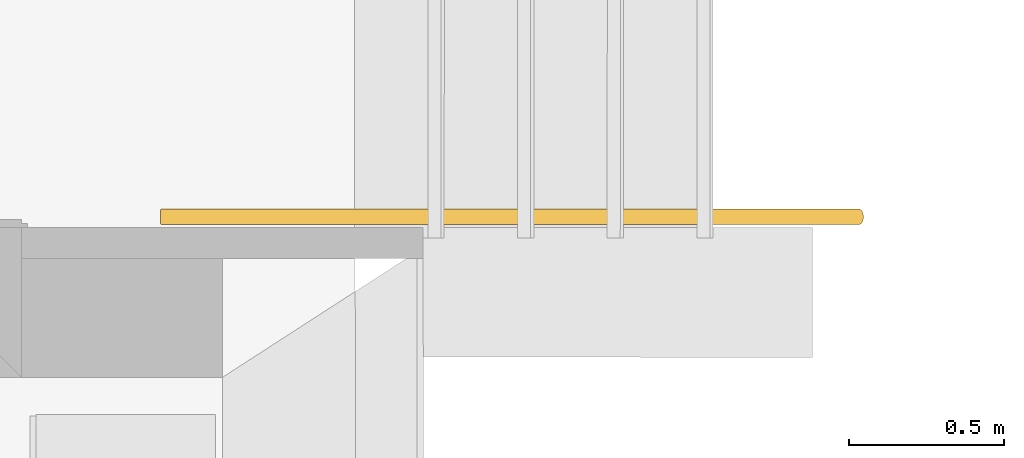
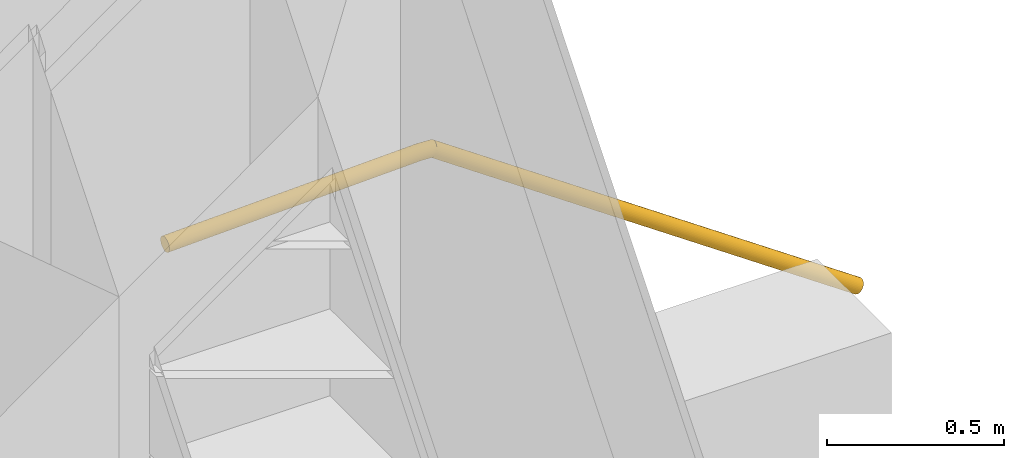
# One storey, part 114 of 194: 1 railing.
"""IFC2X3 building model written with IfcOpenShell, lengths in millimetres."""

import ifcopenshell
import ifcopenshell.guid

model = None  # the IFC model being written
_history = None  # IfcOwnerHistory: only IFC2X3 demands one
_inside = {}  # id of a spatial element -> (the spatial element, [elements in it])
_under = {}  # id of a project, library or spatial element -> (it, [spatial elements below it])
_declared = {}  # id of a project -> (the project, [libraries it declares])
_typed = {}  # id of a type object -> (the type object, [elements of that type])
_made_of = {}  # id of a material, layer set ... -> (it, [elements and type objects made of it])


def new_model(schema):
    """Start an empty IFC model of exactly this schema.

    Asked for "IFC4X3", IfcOpenShell would pick the latest addendum, in which some entities
    have other attributes; the version numbers below select the first issue.
    IFC2X3 requires an IfcOwnerHistory on every rooted entity: one is made here for all.
    """
    global model, _history
    if schema == "IFC4X3":
        model = ifcopenshell.file(schema_version=(4, 3, 0, 0))
    else:
        model = ifcopenshell.file(schema=schema)
    _inside.clear()
    _under.clear()
    _declared.clear()
    _typed.clear()
    _made_of.clear()
    _history = None
    if model.schema == "IFC2X3":
        org = make("IfcOrganization", Name="unknown")
        user = make(
            "IfcPersonAndOrganization",
            ThePerson=make("IfcPerson", FamilyName="unknown"),
            TheOrganization=org,
        )
        app = make(
            "IfcApplication",
            ApplicationDeveloper=org,
            Version="unknown",
            ApplicationFullName="unknown",
            ApplicationIdentifier="unknown",
        )
        _history = make(
            "IfcOwnerHistory",
            OwningUser=user,
            OwningApplication=app,
            ChangeAction="ADDED",
            CreationDate=0,
        )
    return model


def make(cls, **values):
    """One entity of the class cls with the attributes given. An attribute that is None is left unset."""
    return model.create_entity(
        cls, **{name: value for name, value in values.items() if value is not None}
    )


def entity(cls, *values):
    """Any entity or typed value of the class cls, its attributes in the order of the schema. None: left unset."""
    e = model.create_entity(cls)
    for i, value in enumerate(values):
        if value is not None:
            e[i] = value
    return e


def rooted(cls, **values):
    """An entity with a GlobalId (a new one), such as an element, a storey or a relation."""
    return make(cls, GlobalId=ifcopenshell.guid.new(), OwnerHistory=_history, **values)


def si_unit(unit_type, name, prefix=None):
    """IfcSIUnit, for example si_unit("LENGTHUNIT", "METRE", prefix="MILLI")."""
    return make("IfcSIUnit", UnitType=unit_type, Prefix=prefix, Name=name)


def converted_unit(unit_type, name, factor, base, dimensions=None, offset=None):
    """IfcConversionBasedUnit, such as the inch: factor (a typed value) times the base unit."""
    return make(
        "IfcConversionBasedUnit"
        if offset is None
        else "IfcConversionBasedUnitWithOffset",
        ConversionOffset=offset,
        Dimensions=None
        if dimensions is None
        else entity("IfcDimensionalExponents", *dimensions),
        UnitType=unit_type,
        Name=name,
        ConversionFactor=make(
            "IfcMeasureWithUnit", ValueComponent=factor, UnitComponent=base
        ),
    )


def derived_unit(unit_type, elements):
    """IfcDerivedUnit: a product of units, each with its exponent."""
    return make(
        "IfcDerivedUnit",
        Elements=[
            make("IfcDerivedUnitElement", Unit=unit, Exponent=power)
            for unit, power in elements
        ],
        UnitType=unit_type,
    )


def money_unit(currency):
    """IfcMonetaryUnit."""
    return make("IfcMonetaryUnit", Currency=currency)


def assignment(units):
    """IfcUnitAssignment: the units of a project."""
    return None if units is None else make("IfcUnitAssignment", Units=units)


def point(xyz):
    """IfcCartesianPoint."""
    return None if xyz is None else make("IfcCartesianPoint", Coordinates=xyz)


def direction(xyz):
    """IfcDirection."""
    return None if xyz is None else make("IfcDirection", DirectionRatios=xyz)


def frame(location, z_axis=None, x_axis=None):
    """IfcAxis2Placement3D, a coordinate frame: its origin and axes. An axis left out is left unset."""
    return make(
        "IfcAxis2Placement3D",
        Location=point(location),
        Axis=direction(z_axis),
        RefDirection=direction(x_axis),
    )


def origin_with_axes():
    """The frame at (0, 0, 0) with the z axis (0, 0, 1) and the x axis (1, 0, 0) written out."""
    return frame((0.0, 0.0, 0.0), z_axis=(0.0, 0.0, 1.0), x_axis=(1.0, 0.0, 0.0))


def place(relative_to, where):
    """IfcLocalPlacement: puts the frame where relative to a parent placement (None: the world)."""
    return make(
        "IfcLocalPlacement", PlacementRelTo=relative_to, RelativePlacement=where
    )


def context(
    kind, dimensions, precision=None, world=None, true_north=None, identifier=None
):
    """IfcGeometricRepresentationContext, for example the 3D "Model" context."""
    return make(
        "IfcGeometricRepresentationContext",
        ContextIdentifier=identifier,
        ContextType=kind,
        CoordinateSpaceDimension=dimensions,
        Precision=precision,
        WorldCoordinateSystem=world,
        TrueNorth=true_north,
    )


def subcontext(parent, identifier, kind, view, scale=None):
    """IfcGeometricRepresentationSubContext, for example "Body" below "Model"."""
    return make(
        "IfcGeometricRepresentationSubContext",
        ContextIdentifier=identifier,
        ContextType=kind,
        ParentContext=parent,
        TargetScale=scale,
        TargetView=view,
    )


def project(units=None, contexts=None):
    """IfcProject with its units and contexts."""
    return rooted(
        "IfcProject",
        Name="project",
        RepresentationContexts=contexts,
        UnitsInContext=assignment(units),
    )


def spatial(cls, under=None, at=None, **own):
    """A site, building, storey or space (cls), placed at a placement, below another one or the project."""
    s = rooted(cls, ObjectPlacement=at, **own)
    if under is not None:
        _under.setdefault(under.id(), (under, []))[1].append(s)
    return s


def faces_of(points, faces, orient=None, outer=None):
    """IfcFace entities. A face is a list of loops; a loop is a list of indices into points, from 0.

    orient and outer hold one flag for each loop. By default every Orientation is true, the
    first loop of a face is its IfcFaceOuterBound and the others are IfcFaceBound.
    """
    made = []
    for i, loops in enumerate(faces):
        bounds = []
        for j, loop in enumerate(loops):
            is_outer = j == 0 if outer is None else outer[i][j]
            bounds.append(
                make(
                    "IfcFaceOuterBound" if is_outer else "IfcFaceBound",
                    Bound=make("IfcPolyLoop", Polygon=[points[k] for k in loop]),
                    Orientation=True if orient is None else orient[i][j],
                )
            )
        made.append(make("IfcFace", Bounds=bounds))
    return made


def faceted_brep(points, faces, orient=None, outer=None, voids=None):
    """IfcFacetedBrep: a solid bounded by flat faces; with voids (closed shells), ...WithVoids."""
    shared = [point(p) for p in points]
    hull = make("IfcClosedShell", CfsFaces=faces_of(shared, faces, orient, outer))
    if voids is None:
        return make("IfcFacetedBrep", Outer=hull)
    return make(
        "IfcFacetedBrepWithVoids",
        Outer=hull,
        Voids=[
            make(cls, CfsFaces=faces_of(shared, fs, o, b)) for cls, fs, o, b in voids
        ],
    )


def shape(context_of_items, identifier, shape_type, items):
    """IfcShapeRepresentation: the items that make up one representation, for example the "Body"."""
    return make(
        "IfcShapeRepresentation",
        ContextOfItems=context_of_items,
        RepresentationIdentifier=identifier,
        RepresentationType=shape_type,
        Items=items,
    )


def material(Name=None, Category=None):
    """IfcMaterial."""
    return make("IfcMaterial", Name=Name, Category=Category)


def material_list(materials):
    """IfcMaterialList."""
    return make("IfcMaterialList", Materials=materials)


def made_of(thing, what):
    """Note that an element or type object is made of a material, layer set ...; save() writes the relation."""
    if what is not None:
        _made_of.setdefault(what.id(), (what, []))[1].append(thing)
    return thing


def type_object(cls, material=None, **own):
    """A type object (cls), such as IfcWallType, which elements share."""
    return made_of(rooted(cls, **own), material)


def element(
    cls,
    number,
    at=None,
    inside=None,
    cuts=None,
    type_object=None,
    material=None,
    context=None,
    identifier="Body",
    shape_type=None,
    held_by="IfcProductDefinitionShape",
    body=None,
    shapes=None,
    **own,
):
    """One element of the class cls, such as IfcWall. Its Tag is "e" and its number.

    at: its placement. inside: the storey or other place that contains it. cuts: it is an
    opening in that element (IfcRelVoidsElement). A single representation is given by context,
    identifier, shape_type and body (its items); several are given by shapes. held_by: the class
    of the entity that holds the representations. save() writes the other relations.
    """
    e = rooted(cls, Tag="e%d" % number, ObjectPlacement=at, **own)
    if body is not None:
        shapes = [shape(context, identifier, shape_type, body)]
    if shapes is not None:
        e.Representation = make(held_by, Representations=shapes)
    if inside is not None:
        _inside.setdefault(inside.id(), (inside, []))[1].append(e)
    if cuts is not None:
        rooted(
            "IfcRelVoidsElement", RelatingBuildingElement=cuts, RelatedOpeningElement=e
        )
    if type_object is not None:
        _typed.setdefault(type_object.id(), (type_object, []))[1].append(e)
    return made_of(e, material)


def aggregate(whole, parts):
    """IfcRelAggregates: a whole, such as a stair, and the parts it consists of."""
    return rooted("IfcRelAggregates", RelatingObject=whole, RelatedObjects=parts)


def save(model, path):
    """Write the relations noted so far, then the file.

    IfcRelAggregates (storeys below a building ...), IfcRelContainedInSpatialStructure (elements
    in a storey), IfcRelDefinesByType, IfcRelAssociatesMaterial and IfcRelDeclares: one each for
    every whole, place, type object, material and project.
    """
    for whole, parts in _under.values():
        aggregate(whole, parts)
    for where, things in _inside.values():
        rooted(
            "IfcRelContainedInSpatialStructure",
            RelatedElements=things,
            RelatingStructure=where,
        )
    for kind, things in _typed.values():
        rooted("IfcRelDefinesByType", RelatedObjects=things, RelatingType=kind)
    for what, things in _made_of.values():
        rooted("IfcRelAssociatesMaterial", RelatedObjects=things, RelatingMaterial=what)
    for by, libraries in _declared.values():
        rooted("IfcRelDeclares", RelatingContext=by, RelatedDefinitions=libraries)
    model.write(path)


model = new_model("IFC2X3")

# Units and contexts
model_context = context("Model", 3, precision=1e-05, world=origin_with_axes(), true_north=direction((0.0, 1.0)))
body_context = subcontext(model_context, "Body", "Model", "MODEL_VIEW")
ifc_project = project(units=[si_unit("LENGTHUNIT", "METRE", prefix="MILLI"), si_unit("AREAUNIT", "SQUARE_METRE"), si_unit("VOLUMEUNIT", "CUBIC_METRE"), converted_unit("PLANEANGLEUNIT", "DEGREE", entity("IfcPlaneAngleMeasure", 0.0174532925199), si_unit("PLANEANGLEUNIT", "RADIAN"), dimensions=[0, 0, 0, 0, 0, 0, 0]), si_unit("SOLIDANGLEUNIT", "STERADIAN"), money_unit("EUR"), converted_unit("TIMEUNIT", "Year", entity("IfcTimeMeasure", 31556926.0), si_unit("TIMEUNIT", "SECOND"), dimensions=[0, 0, 1, 0, 0, 0, 0]), si_unit("MASSUNIT", "GRAM", prefix="KILO"), si_unit("THERMODYNAMICTEMPERATUREUNIT", "DEGREE_CELSIUS"), si_unit("LUMINOUSINTENSITYUNIT", "LUMEN"), si_unit("ENERGYUNIT", "JOULE", prefix="MEGA"), derived_unit("THERMALCONDUCTANCEUNIT", [(si_unit("POWERUNIT", "WATT"), 1), (si_unit("LENGTHUNIT", "METRE"), -1), (si_unit("THERMODYNAMICTEMPERATUREUNIT", "KELVIN"), -1)]), derived_unit("SPECIFICHEATCAPACITYUNIT", [(si_unit("ENERGYUNIT", "JOULE"), 1), (si_unit("MASSUNIT", "GRAM", prefix="KILO"), -1), (si_unit("THERMODYNAMICTEMPERATUREUNIT", "KELVIN"), -1)]), derived_unit("MASSDENSITYUNIT", [(si_unit("MASSUNIT", "GRAM", prefix="KILO"), 1), (si_unit("VOLUMEUNIT", "CUBIC_METRE"), -1)])], contexts=[model_context])

# Site, building, storey
site_placement = place(None, origin_with_axes())
site = spatial("IfcSite", under=ifc_project, at=site_placement, Name="Site", CompositionType="ELEMENT")
building_placement = place(site_placement, origin_with_axes())
building = spatial("IfcBuilding", under=site, at=building_placement, Name="Building", CompositionType="ELEMENT")
storey_placement = place(building_placement, frame((0.0, 0.0, 3000.0), z_axis=(0.0, 0.0, 1.0), x_axis=(1.0, 0.0, 0.0)))
storey = spatial("IfcBuildingStorey", under=building, at=storey_placement, Name="2 KORRUS", CompositionType="ELEMENT", Elevation=3000.0)

# Railing
ifc_material = material(Name="Puit - Konstruktsioon (1)")
ifc_material_list = material_list([ifc_material, ifc_material, ifc_material, ifc_material, ifc_material])
railing_type = type_object("IfcRailingType", Name="Piire", PredefinedType="NOTDEFINED")
railing_placement = place(storey_placement, frame((45103.200004, 65629.6836184, -911.478706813), z_axis=(0.0, 0.0, 1.0), x_axis=(1.0, 0.0, 0.0)))
element("IfcRailing", 1, at=railing_placement, inside=storey, type_object=railing_type, material=ifc_material_list, Name="Piire", PredefinedType="NOTDEFINED", context=body_context, shape_type="Brep", body=[
    faceted_brep([(-14.182744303, 125.003306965, 979.432476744), (-11.7149691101, 124.622925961, 983.003989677), (152.825212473, 124.584599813, 869.309103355), (150.35743728, 124.964980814, 865.737590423), (-16.6506964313, 124.624075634, 975.860963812), (-19.0438380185, 123.496754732, 972.397969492), (-21.2894546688, 121.655597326, 969.148715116), (-23.3193144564, 119.156546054, 966.211927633), (-25.0717411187, 116.075533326, 963.676839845), (-26.4934880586, 112.506174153, 961.620479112), (-27.5413562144, 108.556921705, 960.105326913), (-28.1835066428, 104.347772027, 959.177420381), (-28.4004279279, 100.006617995, 958.864953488), (-28.185529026, 95.6653633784, 959.177420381), (-27.5453395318, 91.4559150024, 960.105326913), (-26.4993112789, 87.5061748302, 961.620479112), (-25.0792273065, 83.9361537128, 963.676839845), (-23.3282361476, 80.854324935, 966.211927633), (-21.2995407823, 78.3543283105, 969.148715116), (-19.0547820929, 76.512124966, 972.397969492), (-16.6621659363, 75.38368932, 975.860963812), (-14.1943907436, 75.0033083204, 979.432476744), (-11.7264386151, 75.3825396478, 983.003989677), (-9.33329702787, 76.5098605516, 986.466983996), (-7.08768037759, 78.351017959, 989.716238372), (-5.05782059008, 80.8500692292, 992.653025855), (-3.30539392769, 83.9310819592, 995.188113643), (-1.88364698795, 87.5004411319, 997.244474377), (-0.83577883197, 91.4496935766, 998.759626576), (-0.193628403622, 95.6588432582, 999.687533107), (0.0232928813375, 99.9999972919, 1000.0), (-0.191606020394, 104.341251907, 999.687533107), (-0.831795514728, 108.550700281, 998.759626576), (-1.87782376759, 112.500440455, 997.244474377), (-3.29790774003, 116.070461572, 995.188113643), (-5.04889889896, 119.152290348, 992.653025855), (-7.07759426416, 121.652286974, 989.716238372), (-9.3223529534, 123.494490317, 986.466983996), (155.21782863, 123.456164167, 872.772097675), (157.462587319, 121.613960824, 876.021352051), (159.491282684, 119.113964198, 878.958139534), (161.242273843, 116.032135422, 881.493227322), (162.662357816, 112.462114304, 883.549588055), (163.708386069, 108.51237413, 885.064740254), (164.348575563, 104.302925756, 885.992646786), (164.563474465, 99.9616711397, 886.305113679), (164.34655318, 95.6205171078, 885.992646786), (163.704402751, 91.4113674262, 885.064740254), (162.656534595, 87.4621149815, 883.549588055), (161.234787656, 83.8927558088, 881.493227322), (159.482360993, 80.8117430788, 878.958139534), (157.452501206, 78.3126918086, 876.021352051), (155.206884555, 76.4715344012, 872.772097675), (152.813742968, 75.3442134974, 869.309103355), (150.34579084, 74.9649821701, 865.737590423), (147.878015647, 75.3453631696, 862.16607749), (145.48539949, 76.4737988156, 858.703083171), (143.240640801, 78.3160021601, 855.453828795), (141.211945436, 80.8159987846, 852.517041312), (139.460954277, 83.8978275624, 849.981953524), (138.040870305, 87.467848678, 847.92559279), (136.994842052, 91.417588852, 846.410440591), (136.354652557, 95.627037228, 845.48253406), (136.139753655, 99.9682918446, 845.170067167), (136.356674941, 104.309445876, 845.48253406), (136.998825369, 108.518595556, 846.410440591), (138.046693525, 112.467848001, 847.92559279), (139.468440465, 116.037207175, 849.981953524), (141.220867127, 119.118219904, 852.517041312), (143.250726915, 121.617271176, 855.453828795), (145.496343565, 123.458428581, 858.703083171), (147.889485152, 124.585749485, 862.16607749)], [[[0, 1, 2, 3]], [[0, 4, 5, 6, 7, 8, 9, 10, 11, 12, 13, 14, 15, 16, 17, 18, 19, 20, 21, 22, 23, 24, 25, 26, 27, 28, 29, 30, 31, 32, 33, 34, 35, 36, 37, 1]], [[1, 37, 38, 2]], [[3, 2, 38, 39, 40, 41, 42, 43, 44, 45, 46, 47, 48, 49, 50, 51, 52, 53, 54, 55, 56, 57, 58, 59, 60, 61, 62, 63, 64, 65, 66, 67, 68, 69, 70, 71]], [[4, 0, 3, 71]], [[5, 4, 71, 70]], [[6, 5, 70, 69]], [[7, 6, 69, 68]], [[8, 7, 68, 67]], [[9, 8, 67, 66]], [[10, 9, 66, 65]], [[11, 10, 65, 64]], [[12, 11, 64, 63]], [[13, 12, 63, 62]], [[14, 13, 62, 61]], [[15, 14, 61, 60]], [[16, 15, 60, 59]], [[17, 16, 59, 58]], [[18, 17, 58, 57]], [[19, 18, 57, 56]], [[20, 19, 56, 55]], [[21, 20, 55, 54]], [[22, 21, 54, 53]], [[23, 22, 53, 52]], [[24, 23, 52, 51]], [[25, 24, 51, 50]], [[26, 25, 50, 49]], [[27, 26, 49, 48]], [[28, 27, 48, 47]], [[29, 28, 47, 46]], [[30, 29, 46, 45]], [[31, 30, 45, 44]], [[32, 31, 44, 43]], [[33, 32, 43, 42]], [[34, 33, 42, 41]], [[35, 34, 41, 40]], [[36, 35, 40, 39]], [[37, 36, 39, 38]]]),
    faceted_brep([(-1280.25905084, 124.897596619, 1823.03412928), (-1280.2249418, 125.277377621, 1827.37888329), (-1238.37000406, 125.286545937, 1825.32422039), (-1239.8193777, 124.90674581, 1821.04894445), (-1280.1906928, 124.897550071, 1831.72363687), (-1280.29198355, 123.769746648, 1818.82138784), (-1280.32273929, 121.928096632, 1814.86866088), (-1280.35038354, 119.428603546, 1811.29604987), (-1280.37407637, 116.34721225, 1808.21210671), (-1280.39309787, 112.777548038, 1805.71053541), (-1280.40687009, 108.828072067, 1803.86734497), (-1280.41497456, 104.618786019, 1802.73853991), (-1280.41716503, 100.277586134, 1802.35841852), (-1280.41337494, 95.9363772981, 1802.73853077), (-1280.40371946, 91.7270652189, 1803.86732732), (-1280.38849196, 87.7775485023, 1805.71051039), (-1280.36815511, 84.2078323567, 1808.21207589), (-1280.34332684, 81.1263820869, 1811.29601505), (-1280.31476155, 78.6268272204, 1814.86862389), (-1280.28332718, 76.7851164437, 1818.82135042), (-1280.24997885, 75.6572098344, 1823.03409292), (-1280.21572984, 75.277378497, 1827.37884922), (-1280.18162077, 75.6571632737, 1831.72360595), (-1280.14868804, 76.7850241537, 1835.93634979), (-1280.1179323, 78.6266909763, 1839.88907856), (-1280.09028804, 81.1262048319, 1843.46169056), (-1280.06659521, 84.2076184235, 1846.54563375), (-1280.04757372, 87.7773037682, 1849.04720412), (-1280.03380152, 91.7267971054, 1850.89039277), (-1280.02569707, 95.936094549, 1852.0191954), (-1280.02350663, 100.277298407, 1852.399314), (-1280.02729673, 104.618503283, 1852.01919896), (-1280.03695223, 108.827803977, 1850.89039997), (-1280.05217975, 112.777303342, 1849.04721511), (-1280.0725166, 116.34699836, 1846.54564867), (-1280.09734486, 119.428426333, 1843.46170955), (-1280.12591014, 121.927960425, 1839.88910169), (-1280.15734449, 123.769654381, 1835.93637696), (-1236.92063359, 124.906733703, 1829.59949633), (-1234.1968984, 78.635892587, 1837.63438685), (-1235.51550093, 76.7942176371, 1833.74487018), (-1236.92083925, 75.6663451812, 1829.59949633), (-1238.3702129, 75.286545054, 1825.32422039), (-1239.81958336, 75.6663572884, 1821.04894445), (-1241.22491227, 76.7942414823, 1816.9035706), (-1242.54349941, 78.635927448, 1813.01405393), (-1243.73528017, 81.1354564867, 1809.49857545), (-1244.76404291, 84.2168816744, 1806.46395117), (-1245.59852919, 87.7865754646, 1804.00238664), (-1246.21338356, 91.7360745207, 1802.18867523), (-1246.58992399, 95.9453753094, 1801.07792566), (-1246.71670948, 100.286580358, 1800.70388748), (-1246.58988773, 104.627784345, 1801.07792566), (-1246.21331214, 108.837081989, 1802.18867523), (-1245.59842477, 112.786575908, 1804.00238664), (-1244.76390868, 116.356262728, 1806.46395117), (-1243.7351202, 119.437679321, 1809.49857545), (-1242.54331855, 121.937198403, 1813.01405393), (-1241.22471603, 123.778873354, 1816.9035706), (-1235.51530469, 123.778849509, 1833.74487018), (-1234.19671755, 121.937163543, 1837.63438685), (-1233.00493678, 119.437634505, 1841.14986533), (-1231.97617404, 116.356209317, 1844.18448961), (-1231.14168776, 112.786515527, 1846.64605414), (-1230.52683339, 108.837016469, 1848.45976555), (-1230.15029297, 104.627715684, 1849.57051512), (-1230.02350747, 100.286510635, 1849.9445533), (-1230.15032923, 95.9453066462, 1849.57051512), (-1230.52690482, 91.7360090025, 1848.45976555), (-1231.14179218, 87.7865150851, 1846.64605414), (-1231.97630828, 84.2168282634, 1844.18448961), (-1233.00509676, 81.1354116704, 1841.14986533)], [[[0, 1, 2, 3]], [[4, 1, 0, 5, 6, 7, 8, 9, 10, 11, 12, 13, 14, 15, 16, 17, 18, 19, 20, 21, 22, 23, 24, 25, 26, 27, 28, 29, 30, 31, 32, 33, 34, 35, 36, 37]], [[1, 4, 38, 2]], [[39, 40, 41, 42, 43, 44, 45, 46, 47, 48, 49, 50, 51, 52, 53, 54, 55, 56, 57, 58, 3, 2, 38, 59, 60, 61, 62, 63, 64, 65, 66, 67, 68, 69, 70, 71]], [[5, 0, 3, 58]], [[6, 5, 58, 57]], [[7, 6, 57, 56]], [[8, 7, 56, 55]], [[9, 8, 55, 54]], [[10, 9, 54, 53]], [[11, 10, 53, 52]], [[12, 11, 52, 51]], [[13, 12, 51, 50]], [[14, 13, 50, 49]], [[15, 14, 49, 48]], [[16, 15, 48, 47]], [[17, 16, 47, 46]], [[18, 17, 46, 45]], [[19, 18, 45, 44]], [[20, 19, 44, 43]], [[21, 20, 43, 42]], [[22, 21, 42, 41]], [[23, 22, 41, 40]], [[24, 23, 40, 39]], [[25, 24, 39, 71]], [[26, 25, 71, 70]], [[27, 26, 70, 69]], [[28, 27, 69, 68]], [[29, 28, 68, 67]], [[30, 29, 67, 66]], [[31, 30, 66, 65]], [[32, 31, 65, 64]], [[33, 32, 64, 63]], [[34, 33, 63, 62]], [[35, 34, 62, 61]], [[36, 35, 61, 60]], [[37, 36, 60, 59]], [[4, 37, 59, 38]]]),
    faceted_brep([(-1909.19284227, 75.1613769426, 1806.41189867), (-1909.33754606, 75.5411564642, 1810.7506931), (-2109.22651281, 75.504328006, 1804.08738946), (-2109.08180902, 75.1245484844, 1799.74859503), (-1909.04827843, 75.5412097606, 1802.07310425), (-1908.90824705, 76.6691138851, 1797.8661419), (-1908.7770029, 78.510818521, 1793.91883804), (-1908.65853377, 81.0103644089, 1790.35112951), (-1908.5564393, 84.0918041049, 1787.27141932), (-1908.47382156, 87.6615096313, 1784.77328291), (-1908.41319085, 91.6110172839, 1782.9326249), (-1908.37638942, 95.8203232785, 1781.80537273), (-1908.36453544, 100.161529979, 1781.42577741), (-1908.3779891, 104.502732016, 1781.80537273), (-1908.41634162, 108.712024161, 1782.9326249), (-1908.47842767, 112.661509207, 1784.77328291), (-1908.5623608, 116.231184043, 1787.27141932), (-1908.66559075, 119.312585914, 1790.35112951), (-1908.78498092, 121.812087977, 1793.91883804), (-1908.91690371, 123.653744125, 1797.8661419), (-1909.0573507, 124.781596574, 1802.07310425), (-1909.2020545, 125.161376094, 1806.41189867), (-1909.34661833, 124.781543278, 1810.7506931), (-1909.48664972, 123.653639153, 1814.95765545), (-1909.61789386, 121.811934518, 1818.90495931), (-1909.73636299, 119.31238863, 1822.47266784), (-1909.83845746, 116.23094893, 1825.55237803), (-1909.9210752, 112.661243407, 1828.05051443), (-1909.98170591, 108.711735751, 1829.89117245), (-1910.01850735, 104.502429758, 1831.01842462), (-1910.03036132, 100.161223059, 1831.39801994), (-1910.01690766, 95.8200210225, 1831.01842462), (-1909.97855514, 91.6107288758, 1829.89117245), (-1909.91646909, 87.6612438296, 1828.05051443), (-1909.83253596, 84.0915689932, 1825.55237803), (-1909.72930601, 81.0101671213, 1822.47266784), (-1909.60991584, 78.5106650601, 1818.90495931), (-1909.47799305, 76.6690089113, 1814.95765545), (-2109.3669598, 76.6321804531, 1808.29435181), (-2109.49888259, 78.4738366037, 1812.24165567), (-2109.61827276, 80.973338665, 1815.8093642), (-2109.72150271, 84.0547405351, 1818.88907438), (-2109.80543584, 87.6244153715, 1821.38721079), (-2109.86752189, 91.5739004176, 1823.22786881), (-2109.90587441, 95.7831925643, 1824.35512097), (-2109.91932807, 100.124394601, 1824.7347163), (-2109.9074741, 104.465601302, 1824.35512097), (-2109.87067266, 108.674907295, 1823.22786881), (-2109.81004195, 112.624414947, 1821.38721079), (-2109.72742421, 116.194120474, 1818.88907438), (-2109.62532974, 119.275560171, 1815.8093642), (-2109.50686061, 121.775106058, 1812.24165567), (-2109.37561647, 123.616810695, 1808.29435181), (-2109.23558508, 124.74471482, 1804.08738946), (-2109.09102125, 125.124547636, 1799.74859503), (-2108.94631745, 124.744768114, 1795.40980061), (-2108.80587046, 123.616915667, 1791.20283825), (-2108.67394767, 121.775259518, 1787.2555344), (-2108.5545575, 119.275757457, 1783.68782587), (-2108.45132755, 116.194355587, 1780.60811568), (-2108.36739442, 112.624680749, 1778.10997927), (-2108.30530837, 108.675195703, 1776.26932125), (-2108.26695585, 104.465903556, 1775.14206909), (-2108.25350219, 100.124701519, 1774.76247376), (-2108.26535617, 95.7834948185, 1775.14206909), (-2108.3021576, 91.5741888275, 1776.26932125), (-2108.36278831, 87.6246811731, 1778.10997927), (-2108.44540605, 84.0549756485, 1780.60811568), (-2108.54750052, 80.9735359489, 1783.68782587), (-2108.66596965, 78.4739900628, 1787.2555344), (-2108.7972138, 76.6322854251, 1791.20283825), (-2108.93724518, 75.5043813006, 1795.40980061)], [[[0, 1, 2, 3]], [[0, 4, 5, 6, 7, 8, 9, 10, 11, 12, 13, 14, 15, 16, 17, 18, 19, 20, 21, 22, 23, 24, 25, 26, 27, 28, 29, 30, 31, 32, 33, 34, 35, 36, 37, 1]], [[1, 37, 38, 2]], [[3, 2, 38, 39, 40, 41, 42, 43, 44, 45, 46, 47, 48, 49, 50, 51, 52, 53, 54, 55, 56, 57, 58, 59, 60, 61, 62, 63, 64, 65, 66, 67, 68, 69, 70, 71]], [[4, 0, 3, 71]], [[5, 4, 71, 70]], [[6, 5, 70, 69]], [[7, 6, 69, 68]], [[8, 7, 68, 67]], [[9, 8, 67, 66]], [[10, 9, 66, 65]], [[11, 10, 65, 64]], [[12, 11, 64, 63]], [[13, 12, 63, 62]], [[14, 13, 62, 61]], [[15, 14, 61, 60]], [[16, 15, 60, 59]], [[17, 16, 59, 58]], [[18, 17, 58, 57]], [[19, 18, 57, 56]], [[20, 19, 56, 55]], [[21, 20, 55, 54]], [[22, 21, 54, 53]], [[23, 22, 53, 52]], [[24, 23, 52, 51]], [[25, 24, 51, 50]], [[26, 25, 50, 49]], [[27, 26, 49, 48]], [[28, 27, 48, 47]], [[29, 28, 47, 46]], [[30, 29, 46, 45]], [[31, 30, 45, 44]], [[32, 31, 44, 43]], [[33, 32, 43, 42]], [[34, 33, 42, 41]], [[35, 34, 41, 40]], [[36, 35, 40, 39]], [[37, 36, 39, 38]]]),
    faceted_brep([(-14.1943907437, 75.0033083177, 979.432476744), (-11.7264386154, 75.382539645, 983.003989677), (-1236.92083628, 75.6663451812, 1829.59949428), (-16.6621659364, 75.3836893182, 975.860963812), (-19.0547820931, 76.5121249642, 972.397969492), (-21.2995407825, 78.3543283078, 969.148715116), (-23.3282361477, 80.8543249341, 966.211927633), (-25.0792273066, 83.9361537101, 963.676839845), (-26.4993112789, 87.5061748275, 961.620479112), (-27.5453395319, 91.4559150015, 960.105326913), (-28.1855290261, 95.6653633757, 959.177420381), (-28.400427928, 100.006617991, 958.864953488), (-28.183506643, 104.347772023, 959.177420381), (-27.5413562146, 108.556921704, 960.105326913), (-26.4934880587, 112.506174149, 961.620479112), (-25.0717411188, 116.075533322, 963.676839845), (-23.3193144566, 119.15654605, 966.211927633), (-21.2894546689, 121.655597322, 969.148715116), (-19.0438380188, 123.496754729, 972.397969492), (-16.6506964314, 124.624075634, 975.860963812), (-14.1827443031, 125.003306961, 979.432476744), (-11.7149691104, 124.62292596, 983.003989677), (-9.32235295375, 123.494490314, 986.466983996), (-7.07759426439, 121.652286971, 989.716238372), (-5.04889889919, 119.152290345, 992.653025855), (-3.29790774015, 116.070461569, 995.188113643), (-1.87782376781, 112.500440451, 997.244474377), (-0.831795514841, 108.550700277, 998.759626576), (-0.191606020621, 104.341251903, 999.687533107), (0.0232928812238, 99.9999972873, 1000.0), (-0.193628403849, 95.6588432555, 999.687533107), (-0.835778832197, 91.4496935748, 998.759626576), (-1.88364698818, 87.5004411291, 997.244474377), (-3.30539392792, 83.9310819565, 995.188113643), (-5.05782059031, 80.8500692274, 992.653025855), (-7.08768037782, 78.3510179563, 989.716238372), (-9.33329702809, 76.5098605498, 986.466983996), (-1235.51549795, 76.7942176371, 1833.74486812), (-1238.37020992, 75.2865450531, 1825.32421833), (-1239.81958039, 75.6663572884, 1821.04894239), (-1241.22490929, 76.7942414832, 1816.90356854), (-1242.54349643, 78.6359274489, 1813.01405188), (-1243.7352772, 81.1354564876, 1809.49857339), (-1244.76403994, 84.2168816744, 1806.46394912), (-1245.59852621, 87.7865754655, 1804.00238458), (-1246.21338058, 91.7360745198, 1802.18867317), (-1246.58992101, 95.9453753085, 1801.0779236), (-1246.7167065, 100.286580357, 1800.70388542), (-1246.58988475, 104.627784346, 1801.0779236), (-1246.21330916, 108.837081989, 1802.18867317), (-1245.5984218, 112.786575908, 1804.00238458), (-1244.7639057, 116.356262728, 1806.46394912), (-1243.73511722, 119.437679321, 1809.49857339), (-1242.54331557, 121.937198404, 1813.01405188), (-1241.22471305, 123.778873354, 1816.90356854), (-1239.81937472, 124.90674581, 1821.04894239), (-1238.37000108, 125.286545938, 1825.32421833), (-1236.92063062, 124.906733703, 1829.59949428), (-1235.51530171, 123.778849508, 1833.74486812), (-1234.19671457, 121.937163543, 1837.63438479), (-1233.0049338, 119.437634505, 1841.14986328), (-1231.97617106, 116.356209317, 1844.18448755), (-1231.14168479, 112.786515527, 1846.64605208), (-1230.52683042, 108.837016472, 1848.45976349), (-1230.15028999, 104.627715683, 1849.57051307), (-1230.0235045, 100.286510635, 1849.94455125), (-1230.15032625, 95.9453066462, 1849.57051307), (-1230.52690184, 91.7360090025, 1848.45976349), (-1231.1417892, 87.7865150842, 1846.64605208), (-1231.9763053, 84.2168282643, 1844.18448755), (-1233.00509378, 81.1354116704, 1841.14986328), (-1234.19689543, 78.635892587, 1837.63438479)], [[[0, 1, 2]], [[0, 3, 4, 5, 6, 7, 8, 9, 10, 11, 12, 13, 14, 15, 16, 17, 18, 19, 20, 21, 22, 23, 24, 25, 26, 27, 28, 29, 30, 31, 32, 33, 34, 35, 36, 1]], [[1, 37, 2]], [[0, 2, 38]], [[3, 0, 38]], [[4, 3, 39]], [[5, 4, 40]], [[6, 5, 41]], [[7, 6, 42]], [[8, 7, 43]], [[9, 8, 44]], [[10, 9, 45]], [[11, 10, 46]], [[12, 11, 47]], [[13, 12, 48]], [[14, 13, 49]], [[15, 14, 50]], [[16, 15, 51]], [[17, 16, 52]], [[18, 17, 53]], [[19, 18, 54]], [[20, 19, 55]], [[21, 20, 56]], [[22, 21, 57]], [[23, 22, 58]], [[24, 23, 59]], [[25, 24, 60]], [[26, 25, 61]], [[27, 26, 62]], [[28, 27, 63]], [[29, 28, 64]], [[30, 29, 65]], [[31, 30, 66]], [[32, 31, 67]], [[33, 32, 68]], [[34, 33, 69]], [[35, 34, 70]], [[36, 35, 71]], [[1, 36, 37]], [[38, 2, 37, 71, 70, 69, 68, 67, 66, 65, 64, 63, 62, 61, 60, 59, 58, 57, 56, 55, 54, 53, 52, 51, 50, 49, 48, 47, 46, 45, 44, 43, 42, 41, 40, 39]], [[3, 38, 39]], [[4, 39, 40]], [[5, 40, 41]], [[6, 41, 42]], [[7, 42, 43]], [[8, 43, 44]], [[9, 44, 45]], [[10, 45, 46]], [[11, 46, 47]], [[12, 47, 48]], [[13, 48, 49]], [[14, 49, 50]], [[15, 50, 51]], [[16, 51, 52]], [[17, 52, 53]], [[18, 53, 54]], [[19, 54, 55]], [[20, 55, 56]], [[21, 56, 57]], [[22, 57, 58]], [[23, 58, 59]], [[24, 59, 60]], [[25, 60, 61]], [[26, 61, 62]], [[27, 62, 63]], [[28, 63, 64]], [[29, 64, 65]], [[30, 65, 66]], [[31, 66, 67]], [[32, 67, 68]], [[33, 68, 69]], [[34, 69, 70]], [[35, 70, 71]], [[36, 71, 37]]]),
    faceted_brep([(-1280.02350663, 100.277298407, 1852.399314), (-1280.02729675, 104.618502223, 1852.01919718), (-1910.01850735, 104.50242976, 1831.01842462), (-1910.03036132, 100.16122306, 1831.39801994), (-1280.03695226, 108.827799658, 1850.89039637), (-1280.02569706, 95.9360934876, 1852.01919718), (-1280.03380149, 91.7267927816, 1850.89039637), (-1280.04757368, 87.7772937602, 1849.04720961), (-1280.06659515, 84.2075999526, 1846.54564121), (-1280.09028796, 81.1261746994, 1843.46170005), (-1280.1179322, 78.626645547, 1839.88909013), (-1280.14868792, 76.784959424, 1835.93636338), (-1280.18162063, 75.6570750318, 1831.72362141), (-1280.21572968, 75.2772625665, 1827.37886625), (-1280.24997868, 75.6570624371, 1823.0341111), (-1280.283327, 76.7849346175, 1818.82136913), (-1280.31476137, 78.6266092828, 1814.86864238), (-1280.34332666, 81.1261280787, 1811.29603245), (-1280.36815493, 84.2075443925, 1808.21209129), (-1280.3884918, 87.7772309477, 1805.71052289), (-1280.40371933, 91.7267246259, 1803.86733614), (-1280.41337484, 95.9360220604, 1802.73853533), (-1280.41716496, 100.277225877, 1802.35841851), (-1280.41497453, 104.618430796, 1802.73853533), (-1280.4068701, 108.827731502, 1803.86733614), (-1280.39309791, 112.777230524, 1805.71052289), (-1280.37407644, 116.346924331, 1808.21209129), (-1280.35038363, 119.428349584, 1811.29603245), (-1280.32273939, 121.927878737, 1814.86864238), (-1280.29198367, 123.76956486, 1818.82136913), (-1280.25905096, 124.897449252, 1823.0341111), (-1280.22494191, 125.277261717, 1827.37886625), (-1280.19069291, 124.897461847, 1831.72362141), (-1280.15734459, 123.769589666, 1835.93636338), (-1280.12591022, 121.927915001, 1839.88909013), (-1280.09734493, 119.428396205, 1843.46170005), (-1280.07251666, 116.346979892, 1846.54564121), (-1280.05217979, 112.777293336, 1849.04720961), (-1909.98170591, 108.711735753, 1829.89117245), (-1908.7770029, 78.5108185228, 1793.91883804), (-1908.90824705, 76.6691138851, 1797.8661419), (-1909.04827843, 75.5412097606, 1802.07310425), (-1909.19284227, 75.1613769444, 1806.41189867), (-1909.33754606, 75.5411564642, 1810.7506931), (-1909.47799305, 76.6690089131, 1814.95765545), (-1909.60991584, 78.5106650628, 1818.90495931), (-1909.72930601, 81.010167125, 1822.47266784), (-1909.83253596, 84.0915689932, 1825.55237803), (-1909.91646909, 87.6612438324, 1828.05051443), (-1909.97855514, 91.6107288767, 1829.89117245), (-1910.01690766, 95.8200210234, 1831.01842462), (-1909.9210752, 112.661243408, 1828.05051443), (-1909.83845746, 116.230948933, 1825.55237803), (-1909.73636299, 119.312388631, 1822.47266784), (-1909.61789386, 121.811934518, 1818.90495931), (-1909.48664972, 123.653639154, 1814.95765545), (-1909.34661833, 124.781543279, 1810.7506931), (-1909.2020545, 125.161376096, 1806.41189867), (-1909.0573507, 124.781596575, 1802.07310425), (-1908.91690371, 123.653744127, 1797.8661419), (-1908.78498092, 121.812087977, 1793.91883804), (-1908.66559075, 119.312585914, 1790.35112951), (-1908.5623608, 116.231184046, 1787.27141932), (-1908.47842767, 112.661509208, 1784.77328291), (-1908.41634162, 108.712024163, 1782.9326249), (-1908.3779891, 104.502732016, 1781.80537273), (-1908.36453544, 100.161529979, 1781.42577741), (-1908.37638942, 95.8203232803, 1781.80537273), (-1908.41319085, 91.6110172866, 1782.9326249), (-1908.47382156, 87.6615096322, 1784.77328291), (-1908.5564393, 84.0918041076, 1787.27141932), (-1908.65853377, 81.0103644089, 1790.35112951)], [[[0, 1, 2, 3]], [[4, 1, 0, 5, 6, 7, 8, 9, 10, 11, 12, 13, 14, 15, 16, 17, 18, 19, 20, 21, 22, 23, 24, 25, 26, 27, 28, 29, 30, 31, 32, 33, 34, 35, 36, 37]], [[1, 4, 38, 2]], [[39, 40, 41, 42, 43, 44, 45, 46, 47, 48, 49, 50, 3, 2, 38, 51, 52, 53, 54, 55, 56, 57, 58, 59, 60, 61, 62, 63, 64, 65, 66, 67, 68, 69, 70, 71]], [[5, 0, 3, 50]], [[6, 5, 50, 49]], [[7, 6, 49, 48]], [[8, 7, 48, 47]], [[9, 8, 47, 46]], [[10, 9, 46, 45]], [[11, 10, 45, 44]], [[12, 11, 44, 43]], [[13, 12, 43, 42]], [[14, 13, 42, 41]], [[15, 14, 41, 40]], [[16, 15, 40, 39]], [[17, 16, 39, 71]], [[18, 17, 71, 70]], [[19, 18, 70, 69]], [[20, 19, 69, 68]], [[21, 20, 68, 67]], [[22, 21, 67, 66]], [[23, 22, 66, 65]], [[24, 23, 65, 64]], [[25, 24, 64, 63]], [[26, 25, 63, 62]], [[27, 26, 62, 61]], [[28, 27, 61, 60]], [[29, 28, 60, 59]], [[30, 29, 59, 58]], [[31, 30, 58, 57]], [[32, 31, 57, 56]], [[33, 32, 56, 55]], [[34, 33, 55, 54]], [[35, 34, 54, 53]], [[36, 35, 53, 52]], [[37, 36, 52, 51]], [[4, 37, 51, 38]]]),
])

save(model, "model.ifc")
